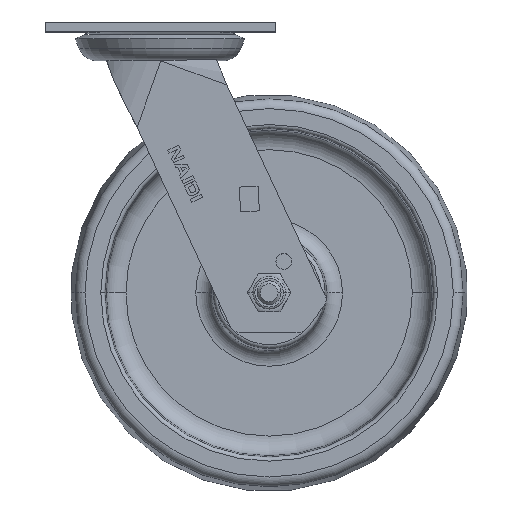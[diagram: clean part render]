
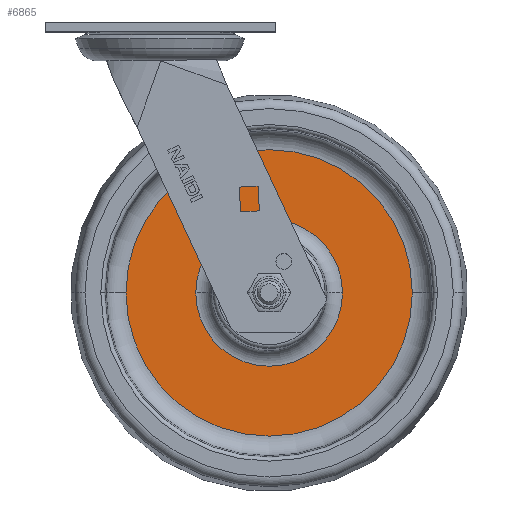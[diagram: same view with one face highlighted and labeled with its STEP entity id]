
A CAD part, top view. The second image highlights one B-rep face of the part: STEP entity #6865.
In plain terms, the highlighted planar face has unit normal (0, 0, 1) as drawn and (1, 0, 0) by its records, which use the part's own axes.
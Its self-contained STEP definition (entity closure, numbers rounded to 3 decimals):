
#6262=CARTESIAN_POINT('',(4.,0.,0.));
#6263=DIRECTION('',(-1.,0.,0.));
#6264=DIRECTION('',(0.,1.,0.));
#6265=AXIS2_PLACEMENT_3D('',#6262,#6263,#6264);
#6267=CARTESIAN_POINT('',(4.,0.,0.));
#6268=DIRECTION('',(1.,0.,0.));
#6269=DIRECTION('',(0.,1.,0.));
#6270=AXIS2_PLACEMENT_3D('',#6267,#6268,#6269);
#6272=CARTESIAN_POINT('',(4.,0.,0.));
#6273=DIRECTION('',(1.,0.,0.));
#6274=DIRECTION('',(0.,1.,0.));
#6275=AXIS2_PLACEMENT_3D('',#6272,#6273,#6274);
#6287=CARTESIAN_POINT('',(4.,0.,0.));
#6288=DIRECTION('',(-1.,0.,0.));
#6289=DIRECTION('',(0.,1.,0.));
#6290=AXIS2_PLACEMENT_3D('',#6287,#6288,#6289);
#6392=CARTESIAN_POINT('',(4.,36.998,0.));
#6393=VERTEX_POINT('',#6392);
#6394=CARTESIAN_POINT('',(4.,72.206,0.));
#6396=VERTEX_POINT('',#6394);
#6436=CARTESIAN_POINT('',(4.,-36.998,0.));
#6437=VERTEX_POINT('',#6436);
#6438=CARTESIAN_POINT('',(4.,-72.206,
0.));
#6440=VERTEX_POINT('',#6438);
#6850=CARTESIAN_POINT('',(4.,0.,0.));
#6851=DIRECTION('',(1.,0.,0.));
#6852=DIRECTION('',(0.,-1.,0.));
#6853=AXIS2_PLACEMENT_3D('',#6850,#6851,#6852);
#6854=PLANE('',#6853);
#6856=ORIENTED_EDGE('',*,*,#6855,.F.);
#6858=ORIENTED_EDGE('',*,*,#6857,.T.);
#6859=EDGE_LOOP('',(#6856,#6858));
#6860=FACE_OUTER_BOUND('',#6859,.F.);
#6861=ORIENTED_EDGE('',*,*,#6843,.F.);
#6862=ORIENTED_EDGE('',*,*,#6832,.T.);
#6863=EDGE_LOOP('',(#6861,#6862));
#6864=FACE_BOUND('',#6863,.F.);
#6266=CIRCLE('',#6265,36.998);
#6271=CIRCLE('',#6270,36.998);
#6276=CIRCLE('',#6275,72.206);
#6291=CIRCLE('',#6290,72.206);
#6832=EDGE_CURVE('',#6393,#6437,#6271,.T.);
#6843=EDGE_CURVE('',#6393,#6437,#6266,.T.);
#6855=EDGE_CURVE('',#6396,#6440,#6276,.T.);
#6857=EDGE_CURVE('',#6396,#6440,#6291,.T.);
#6865=ADVANCED_FACE('',(#6860,#6864),#6854,.T.);
